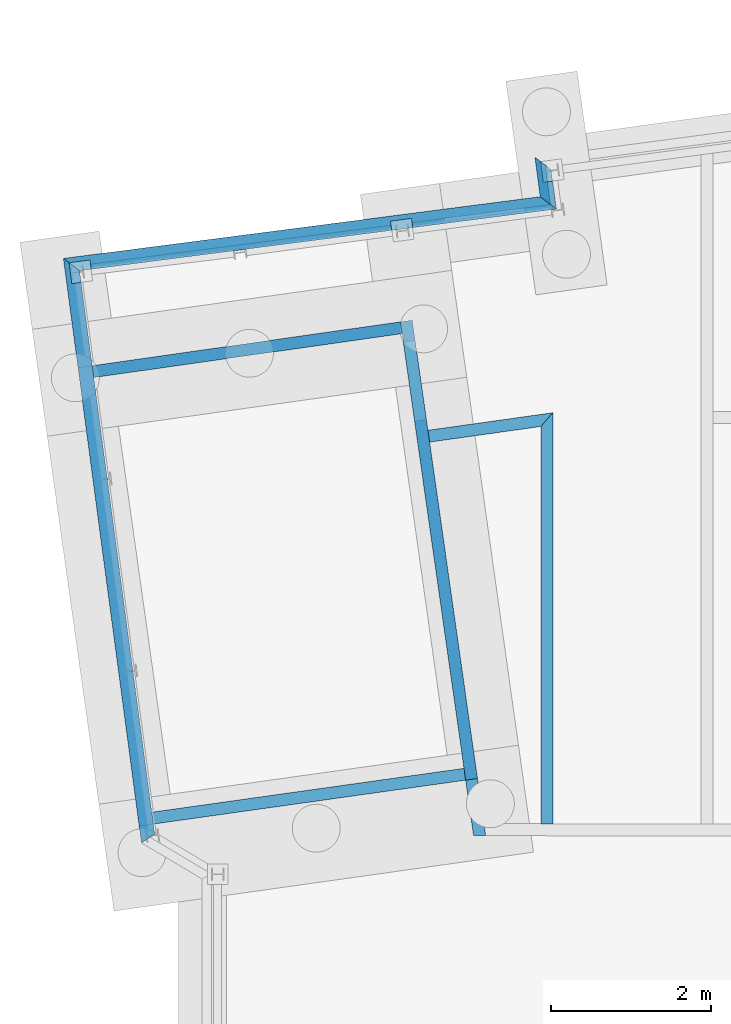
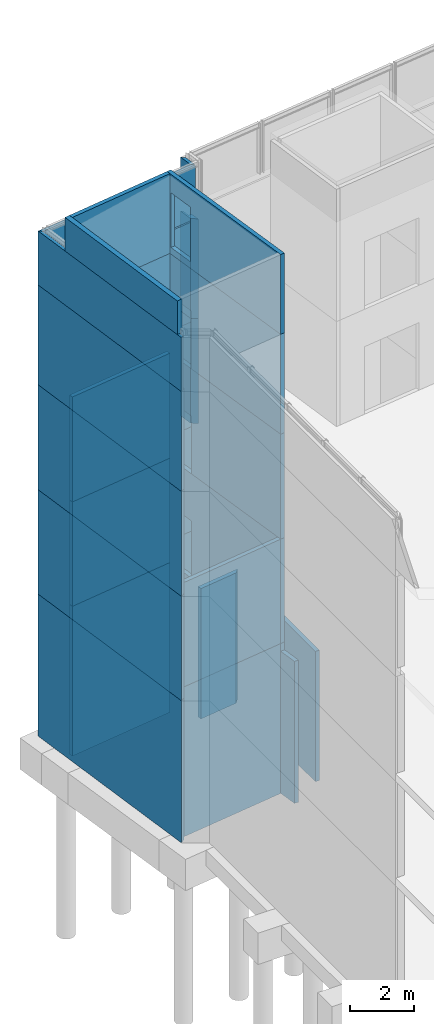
# One storey, part 70 of 82: 28 walls.
"""IFC2X3 building model written with IfcOpenShell, lengths in millimetres."""

from ifc_helpers import new_model, si_unit, frame, frame_2d, origin_with_axes, place, context, subcontext, project, spatial, polyline, rectangle, circle, outline, extrude, boolean, clip, halfspace, material, layer, layer_set, layer_usage, type_object, element, save


model = new_model("IFC2X3")

# Units and contexts
model_context = context("Model", 3, precision=1e-05, world=origin_with_axes())
body_context = subcontext(model_context, "Body", "Model", "MODEL_VIEW")
ifc_project = project(units=[si_unit("LENGTHUNIT", "METRE", prefix="MILLI"), si_unit("AREAUNIT", "SQUARE_METRE"), si_unit("VOLUMEUNIT", "CUBIC_METRE"), si_unit("MASSUNIT", "GRAM", prefix="KILO"), si_unit("TIMEUNIT", "SECOND"), si_unit("PLANEANGLEUNIT", "RADIAN"), si_unit("SOLIDANGLEUNIT", "STERADIAN"), si_unit("THERMODYNAMICTEMPERATUREUNIT", "DEGREE_CELSIUS"), si_unit("LUMINOUSINTENSITYUNIT", "LUMEN")], contexts=[model_context])

# Site, building, storey
site_placement = place(None, origin_with_axes())
site = spatial("IfcSite", under=ifc_project, at=site_placement, Name="Undefined", CompositionType="ELEMENT")
building_placement = place(site_placement, origin_with_axes())
building = spatial("IfcBuilding", under=site, at=building_placement, Name="Undefined", CompositionType="ELEMENT")
storey_placement = place(building_placement, origin_with_axes())
storey = spatial("IfcBuildingStorey", under=building, at=storey_placement, Name="Undefined", CompositionType="ELEMENT", Elevation=0.0)

# Walls
ifc_material_1 = material(Name="CONCRETE/C25/30")
wall_type_1 = type_object("IfcWallType", Name="3830*150", PredefinedType="NOTDEFINED")
wall_1_placement = place(storey_placement, frame((2444.51224522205, 25459.4833663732, 13330.0000000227), z_axis=(0.0, 0.0, 1.0), x_axis=(-0.99002185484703, -0.140913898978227, 0.0)))
element("IfcWall", 1, at=wall_1_placement, inside=storey, type_object=wall_type_1, material=ifc_material_1, Name="VOILE_15CM", ObjectType="3830*150", context=body_context, shape_type="Clipping", body=[
    clip(extrude(rectangle(XDim=3986.0246190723, YDim=150.0, at=frame_2d((0.0, 2143.01106508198), x_axis=(0.0, -1.0))), frame((0.0, 0.0, 0.0), z_axis=(0.0, 0.0, 1.0), x_axis=(-2.77555756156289e-17, -1.0, 0.0)), (0.0, 0.0, 1.0), 3830.0), halfspace(frame((4045.33067107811, -3.67945176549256e-08, 915.0), z_axis=(-0.999961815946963, 0.00873880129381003, 0.0), x_axis=(0.00873880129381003, 0.999961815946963, 0.0)), True)),
])
ifc_layer_1 = layer(ifc_material_1, 150.0)
ifc_layer_set_1 = layer_set([ifc_layer_1], Name="Wall: Insitu CONCRETE/C25/30")
ifc_layer_usage_1 = layer_usage(ifc_layer_set_1, "AXIS2", "POSITIVE", -75.0)
wall_2_placement = place(storey_placement, frame((2359.69237022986, 25523.1656782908, 13330.0000000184), z_axis=(0.0, 0.0, 1.0), x_axis=(0.140927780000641, -0.990019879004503, 0.0)))
element("IfcWallStandardCase", 2, at=wall_2_placement, inside=storey, type_object=wall_type_1, material=ifc_layer_usage_1, Name="VOILE_15CM", ObjectType="3830*150", context=body_context, shape_type="CSG", body=[
    boolean("DIFFERENCE", extrude(rectangle(XDim=5792.8290000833, YDim=150.0, at=frame_2d((0.0, 2896.41450004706), x_axis=(0.0, -1.0))), frame((0.0, 0.0, 0.0), z_axis=(0.0, 0.0, 1.0), x_axis=(-2.77555756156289e-17, -1.0, 0.0)), (0.0, 0.0, 1.0), 3830.0), extrude(outline(polyline([(5.17284206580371e-08, 4.49290382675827e-10), (2220.0, -4.22005541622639e-10), (2220.0, 999.999999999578), (0.0, 1000.00000000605), (5.17284206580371e-08, 4.49290382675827e-10)])), frame((1256.48943089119, -85.0000000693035, 2220.00000000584), z_axis=(0.0, 1.0, 0.0), x_axis=(0.0, -6.50000002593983e-08, -0.999999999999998)), (0.0, 0.0, 1.0), 170.0)),
])
wall_type_2 = type_object("IfcWallType", Name="4025*150", PredefinedType="NOTDEFINED")
wall_3_placement = place(storey_placement, frame((2444.51224522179, 25459.4833663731, 9305.00000002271), z_axis=(0.0, 0.0, 1.0), x_axis=(-0.99002185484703, -0.140913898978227, 0.0)))
element("IfcWall", 3, at=wall_3_placement, inside=storey, type_object=wall_type_2, material=ifc_material_1, Name="VOILE_15CM", ObjectType="4025*150", context=body_context, shape_type="Clipping", body=[
    clip(extrude(rectangle(XDim=3986.0246190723, YDim=150.0, at=frame_2d((0.0, 2143.01106508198), x_axis=(0.0, -1.0))), frame((0.0, 0.0, 0.0), z_axis=(0.0, 0.0, 1.0), x_axis=(-2.77555756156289e-17, -1.0, 0.0)), (0.0, 0.0, 1.0), 4025.0), halfspace(frame((4045.33067107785, -3.67981556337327e-08, 1012.5), z_axis=(-0.999961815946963, 0.00873880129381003, 0.0), x_axis=(0.00873880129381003, 0.999961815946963, 0.0)), True)),
])
ifc_layer_usage_2 = layer_usage(ifc_layer_set_1, "AXIS2", "POSITIVE", -75.0)
wall_4_placement = place(storey_placement, frame((2359.69237022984, 25523.165678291, 9305.00000001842), z_axis=(0.0, 0.0, 1.0), x_axis=(0.140927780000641, -0.990019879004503, 0.0)))
element("IfcWallStandardCase", 4, at=wall_4_placement, inside=storey, type_object=wall_type_2, material=ifc_layer_usage_2, Name="VOILE_15CM", ObjectType="4025*150", context=body_context, shape_type="CSG", body=[
    boolean("DIFFERENCE", extrude(rectangle(XDim=5792.8290000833, YDim=150.0, at=frame_2d((0.0, 2896.41450004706), x_axis=(0.0, -1.0))), frame((0.0, 0.0, 0.0), z_axis=(0.0, 0.0, 1.0), x_axis=(-2.77555756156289e-17, -1.0, 0.0)), (0.0, 0.0, 1.0), 4025.0), extrude(outline(polyline([(5.17284206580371e-08, 4.49290382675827e-10), (2220.0, -4.22005541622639e-10), (2220.0, 999.999999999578), (0.0, 1000.00000000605), (5.17284206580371e-08, 4.49290382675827e-10)])), frame((1256.48943089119, -85.0000000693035, 2220.00000000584), z_axis=(0.0, 1.0, 0.0), x_axis=(0.0, -6.50000002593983e-08, -0.999999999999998)), (0.0, 0.0, 1.0), 170.0)),
])
wall_type_3 = type_object("IfcWallType", Name="4005*150", PredefinedType="NOTDEFINED")
wall_5_placement = place(storey_placement, frame((3091.37342688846, 19851.8501837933, 5300.00000002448), z_axis=(0.0, 0.0, 1.0), x_axis=(-0.990268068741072, -0.13917310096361, 0.0)))
element("IfcWall", 5, at=wall_5_placement, inside=storey, type_object=wall_type_3, material=ifc_material_1, Name="VOILE_15CM", ObjectType="4005*150", context=body_context, shape_type="Clipping", body=[
    clip(extrude(rectangle(XDim=4034.8041993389, YDim=150.0, at=frame_2d((0.0, 2017.53498920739), x_axis=(0.0, -1.0))), frame((0.0, 0.0, 0.0), z_axis=(0.0, 0.0, 1.0), x_axis=(-2.77555756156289e-17, -1.0, 0.0)), (0.0, 0.0, 1.0), 4005.0), halfspace(frame((3944.80287529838, -3.4353433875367e-08, 1002.5), z_axis=(-0.999975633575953, 0.00698084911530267, 0.0), x_axis=(0.00698084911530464, 0.999975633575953, 0.0)), True)),
])
wall_6_placement = place(storey_placement, frame((2444.51224522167, 25459.4833663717, 5300.00000002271), z_axis=(0.0, 0.0, 1.0), x_axis=(-0.99002185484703, -0.140913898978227, 0.0)))
element("IfcWall", 6, at=wall_6_placement, inside=storey, type_object=wall_type_3, material=ifc_material_1, Name="VOILE_15CM", ObjectType="4005*150", context=body_context, shape_type="Clipping", body=[
    clip(extrude(rectangle(XDim=3986.02461873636, YDim=150.0, at=frame_2d((0.0, 2143.01106508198), x_axis=(0.0, -1.0))), frame((0.0, 0.0, 0.0), z_axis=(0.0, 0.0, 1.0), x_axis=(-2.77555756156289e-17, -1.0, 0.0)), (0.0, 0.0, 1.0), 4005.0), halfspace(frame((4045.33067107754, -3.68345354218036e-08, 1002.5), z_axis=(-0.999961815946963, 0.00873880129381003, 0.0), x_axis=(0.00873880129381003, 0.999961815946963, 0.0)), True)),
])
ifc_layer_usage_3 = layer_usage(ifc_layer_set_1, "AXIS2", "POSITIVE", -75.0)
wall_7_placement = place(storey_placement, frame((2359.6923702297, 25523.1656782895, 5300.00000001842), z_axis=(0.0, 0.0, 1.0), x_axis=(0.140927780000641, -0.990019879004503, 0.0)))
element("IfcWallStandardCase", 7, at=wall_7_placement, inside=storey, type_object=wall_type_3, material=ifc_layer_usage_3, Name="VOILE_15CM", ObjectType="4005*150", context=body_context, shape_type="CSG", body=[
    boolean("DIFFERENCE", extrude(rectangle(XDim=5792.82900008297, YDim=150.0, at=frame_2d((0.0, 2896.41450004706), x_axis=(0.0, -1.0))), frame((0.0, 0.0, 0.0), z_axis=(0.0, 0.0, 1.0), x_axis=(-2.77555756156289e-17, -1.0, 0.0)), (0.0, 0.0, 1.0), 4005.0), extrude(outline(polyline([(5.17284206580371e-08, 4.49290382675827e-10), (2200.0, 1.09139364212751e-11), (2200.0, 1000.00000000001), (0.0, 1000.00000000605), (5.17284206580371e-08, 4.49290382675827e-10)])), frame((1256.48943089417, -85.0000004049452, 2200.00000000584), z_axis=(0.0, 1.0, 0.0), x_axis=(0.0, -6.50000002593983e-08, -0.999999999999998)), (0.0, 0.0, 1.0), 170.0)),
])
ifc_layer_2 = layer(ifc_material_1, 180.0)
ifc_layer_set_2 = layer_set([ifc_layer_2], Name="Wall: Insitu CONCRETE/C25/30")
ifc_layer_usage_4 = layer_usage(ifc_layer_set_2, "AXIS2", "POSITIVE", -90.0)
wall_type_4 = type_object("IfcWallType", Name="1290*180", PredefinedType="NOTDEFINED")
wall_8_placement = place(storey_placement, frame((-894.162523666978, 19215.347637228, 18931.0), z_axis=(0.0, 0.0, 1.0), x_axis=(-0.132256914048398, 0.991215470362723, 0.0)))
element("IfcWallStandardCase", 8, at=wall_8_placement, inside=storey, type_object=wall_type_4, material=ifc_layer_usage_4, Name="PANNEAU_FACADE", ObjectType="1290*180", context=body_context, shape_type="SweptSolid", body=[
    extrude(rectangle(XDim=5785.79959054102, YDim=180.0, at=frame_2d((0.0, 2892.89979527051), x_axis=(0.0, -1.0))), frame((0.0, 0.0, 0.0), z_axis=(0.0, 0.0, 1.0), x_axis=(-2.77555756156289e-17, -1.0, 0.0)), (0.0, 0.0, 1.0), 1290.0),
])
wall_type_5 = type_object("IfcWallType", Name="2071*115", PredefinedType="NOTDEFINED")
wall_9_placement = place(storey_placement, frame((4091.24355545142, 27085.5637129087, 16860.0), z_axis=(0.0, 0.0, 1.0), x_axis=(-0.132256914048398, 0.991215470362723, 0.0)))
element("IfcWall", 9, at=wall_9_placement, inside=storey, type_object=wall_type_5, material=ifc_material_1, Name="PANNEAU_FACADE", ObjectType="2071*115", context=body_context, shape_type="Clipping", body=[
    clip(clip(extrude(rectangle(XDim=1006.84812565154, YDim=115.0, at=frame_2d((0.0, 192.066984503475), x_axis=(0.0, -1.0))), frame((0.0, 0.0, 0.0), z_axis=(0.0, 0.0, 1.0), x_axis=(-2.77555756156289e-17, -1.0, 0.0)), (0.0, 0.0, 1.0), 2071.0), halfspace(frame((499.419812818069, 57.5000000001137, 1035.5), z_axis=(-0.706752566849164, 0.70746081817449, 0.0), x_axis=(0.0, 0.0, 1.0)), True)), halfspace(frame((3.31783667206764e-09, 57.5000000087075, 1035.5), z_axis=(-0.705704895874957, 0.708505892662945, 0.0), x_axis=(0.0, 0.0, 1.0)), False)),
])
wall_10_placement = place(storey_placement, frame((-1923.68653508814, 26249.024349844, 16860.0), z_axis=(0.0, 0.0, 1.0), x_axis=(0.991731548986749, 0.128329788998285, 0.0)))
element("IfcWall", 10, at=wall_10_placement, inside=storey, type_object=wall_type_5, material=ifc_material_1, Name="PANNEAU_FACADE", ObjectType="2071*115", context=body_context, shape_type="Clipping", body=[
    clip(clip(extrude(rectangle(XDim=6635.12121817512, YDim=115.0, at=frame_2d((0.0, 3065.25286614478), x_axis=(0.0, -1.0))), frame((0.0, 0.0, 0.0), z_axis=(0.0, 0.0, 1.0), x_axis=(-2.77555756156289e-17, -1.0, 0.0)), (0.0, 0.0, 1.0), 2071.0), halfspace(frame((6015.04930680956, 57.5000000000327, 1035.49999999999), z_axis=(-0.705704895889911, -0.70850589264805, 0.0), x_axis=(0.0, 0.0, 1.0)), True)), halfspace(frame((3.31783667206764e-09, 57.5000000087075, 1035.5), z_axis=(-0.705704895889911, -0.70850589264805, 0.0), x_axis=(0.0, 0.0, 1.0)), False)),
])
wall_11_placement = place(storey_placement, frame((-898.384355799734, 19001.2548244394, 16860.0), z_axis=(0.0, 0.0, 1.0), x_axis=(-0.132256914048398, 0.991215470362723, 0.0)))
element("IfcWall", 11, at=wall_11_placement, inside=storey, type_object=wall_type_5, material=ifc_material_1, Name="PANNEAU_FACADE", ObjectType="2071*115", context=body_context, shape_type="Clipping", body=[
    clip(clip(extrude(rectangle(XDim=7730.16381775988, YDim=115.0, at=frame_2d((0.0, 3673.65473618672), x_axis=(0.0, -1.0))), frame((0.0, 0.0, 0.0), z_axis=(0.0, 0.0, 1.0), x_axis=(-2.77555756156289e-17, -1.0, 0.0)), (0.0, 0.0, 1.0), 2071.0), halfspace(frame((7377.20413036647, 57.5000000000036, 1035.5), z_axis=(-0.705704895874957, 0.708505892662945, 0.0), x_axis=(0.0, 0.0, 1.0)), True)), halfspace(frame((3.31783667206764e-09, 57.5000000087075, 1035.5), z_axis=(-0.900091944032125, -0.435700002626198, 0.0), x_axis=(0.0, 0.0, 1.0)), False)),
])
wall_type_6 = type_object("IfcWallType", Name="3061*150", PredefinedType="NOTDEFINED")
wall_12_placement = place(storey_placement, frame((2444.51224522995, 25459.4833663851, 17160.0000000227), z_axis=(0.0, 0.0, 1.0), x_axis=(-0.99002185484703, -0.140913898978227, 0.0)))
element("IfcWall", 12, at=wall_12_placement, inside=storey, type_object=wall_type_6, material=ifc_material_1, Name="VOILE_15CM", ObjectType="3061*150", context=body_context, shape_type="Clipping", body=[
    clip(extrude(rectangle(XDim=3986.02461899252, YDim=150.0, at=frame_2d((0.0, 2143.01106508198), x_axis=(0.0, -1.0))), frame((0.0, 0.0, 0.0), z_axis=(0.0, 0.0, 1.0), x_axis=(-2.77555756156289e-17, -1.0, 0.0)), (0.0, 0.0, 1.0), 3061.0), halfspace(frame((4044.68898239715, -73.427015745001, 1770.99999997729), z_axis=(0.999961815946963, -0.00873880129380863, 0.0), x_axis=(0.0, 0.0, 1.0)), False)),
])
ifc_layer_usage_5 = layer_usage(ifc_layer_set_1, "AXIS2", "POSITIVE", -75.0)
wall_13_placement = place(storey_placement, frame((2359.69237023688, 25523.1656783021, 17160.0000000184), z_axis=(0.0, 0.0, 1.0), x_axis=(0.140927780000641, -0.990019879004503, 0.0)))
element("IfcWallStandardCase", 13, at=wall_13_placement, inside=storey, type_object=wall_type_6, material=ifc_layer_usage_5, Name="VOILE_15CM", ObjectType="3061*150", context=body_context, shape_type="CSG", body=[
    boolean("DIFFERENCE", extrude(rectangle(XDim=5792.82900009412, YDim=150.0, at=frame_2d((0.0, 2896.41450004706), x_axis=(0.0, -1.0))), frame((0.0, 0.0, 0.0), z_axis=(0.0, 0.0, 1.0), x_axis=(-2.77555756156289e-17, -1.0, 0.0)), (0.0, 0.0, 1.0), 3061.0), extrude(outline(polyline([(5.17284206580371e-08, 4.49290382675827e-10), (2100.0, 5.82076609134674e-11), (2100.0, 1000.00000000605), (0.0, 1000.00000000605), (5.17284206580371e-08, 4.49290382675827e-10)])), frame((1201.2387472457, -85.0000000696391, 2352.98114011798), z_axis=(0.0, 1.0, 0.0), x_axis=(0.0, -6.50000002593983e-08, -0.999999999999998)), (0.0, 0.0, 1.0), 170.0)),
])
wall_type_7 = type_object("IfcWallType", Name="3830*180", PredefinedType="NOTDEFINED")
wall_14_placement = place(storey_placement, frame((4147.35883098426, 26910.7352589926, 13030.0), z_axis=(0.0, 0.0, 1.0), x_axis=(-0.132256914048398, 0.991215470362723, 0.0)))
element("IfcWall", 14, at=wall_14_placement, inside=storey, type_object=wall_type_7, material=ifc_material_1, Name="PANNEAU_FACADE", ObjectType="3830*180", context=body_context, shape_type="CSG", body=[
    boolean("DIFFERENCE", boolean("DIFFERENCE", boolean("DIFFERENCE", extrude(rectangle(XDim=1293.65543501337, YDim=180.0, at=frame_2d((0.0, 340.200514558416), x_axis=(0.0, -1.0))), frame((0.0, 0.0, 0.0), z_axis=(0.0, 0.0, 1.0), x_axis=(-2.77555756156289e-17, -1.0, 0.0)), (0.0, 0.0, 1.0), 3830.0), extrude(rectangle(XDim=265.0, YDim=265.0, at=frame_2d((5.17284206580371e-08, 4.49290382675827e-10), x_axis=(1.0, 0.0))), frame((485.073421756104, -104.999523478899, 3829.9999999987), z_axis=(0.0, -6.50000002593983e-08, -0.999999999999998), x_axis=(0.999999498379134, -0.00100161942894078, 0.0)), (0.0, 0.0, 1.0), 3530.0)), halfspace(frame((680.134124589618, 89.9999993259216, 1915.0), z_axis=(-0.706752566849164, 0.70746081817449, 0.0), x_axis=(0.0, 0.0, 1.0)), True)), halfspace(frame((180.714311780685, 89.9999998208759, 1915.0), z_axis=(-0.705704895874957, 0.708505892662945, 0.0), x_axis=(0.0, 0.0, 1.0)), False)),
])
wall_15_placement = place(storey_placement, frame((-1919.51594655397, 26216.7930577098, 13030.0), z_axis=(0.0, 0.0, 1.0), x_axis=(0.991731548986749, 0.128329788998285, 0.0)))
element("IfcWall", 15, at=wall_15_placement, inside=storey, type_object=wall_type_7, material=ifc_material_1, Name="PANNEAU_FACADE", ObjectType="3830*180", context=body_context, shape_type="CSG", body=[
    boolean("DIFFERENCE", boolean("DIFFERENCE", boolean("DIFFERENCE", boolean("DIFFERENCE", extrude(rectangle(XDim=6985.59664635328, YDim=180.0, at=frame_2d((0.0, 3097.88198663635), x_axis=(0.0, -1.0))), frame((0.0, 0.0, 0.0), z_axis=(0.0, 0.0, 1.0), x_axis=(-2.77555756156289e-17, -1.0, 0.0)), (0.0, 0.0, 1.0), 3830.0), extrude(rectangle(XDim=265.0, YDim=265.0, at=frame_2d((5.17284206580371e-08, 4.49290382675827e-10), x_axis=(1.0, 0.0))), frame((4250.83669186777, -104.995246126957, 3830.0), z_axis=(0.0, -6.50000002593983e-08, -0.999999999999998), x_axis=(-0.00395969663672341, 0.999992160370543, 0.0)), (0.0, 0.0, 1.0), 3530.0)), extrude(rectangle(XDim=265.0, YDim=265.0, at=frame_2d((5.17284206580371e-08, 4.49290382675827e-10), x_axis=(1.0, 0.0))), frame((195.768834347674, -104.480001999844, 3830.0), z_axis=(0.0, -6.50000002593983e-08, -0.999999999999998), x_axis=(0.0, 1.0, 0.0)), (0.0, 0.0, 1.0), 3530.0)), halfspace(frame((6015.04943750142, 90.0000000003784, 1915.0), z_axis=(-0.705704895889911, -0.70850589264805, 0.0), x_axis=(0.0, 0.0, 1.0)), True)), halfspace(frame((0.000151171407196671, 90.0000000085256, 1915.0), z_axis=(-0.705704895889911, -0.70850589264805, 0.0), x_axis=(0.0, 0.0, 1.0)), False)),
])
wall_16_placement = place(storey_placement, frame((-866.169861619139, 19005.5532386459, 13030.0), z_axis=(0.0, 0.0, 1.0), x_axis=(-0.132256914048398, 0.991215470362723, 0.0)))
element("IfcWall", 16, at=wall_16_placement, inside=storey, type_object=wall_type_7, material=ifc_material_1, Name="PANNEAU_FACADE", ObjectType="3830*180", context=body_context, shape_type="CSG", body=[
    boolean("DIFFERENCE", boolean("DIFFERENCE", boolean("DIFFERENCE", extrude(rectangle(XDim=7929.66277150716, YDim=180.0, at=frame_2d((0.0, 3665.20618080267), x_axis=(0.0, -1.0))), frame((0.0, 0.0, 0.0), z_axis=(0.0, 0.0, 1.0), x_axis=(-2.77555756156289e-17, -1.0, 0.0)), (0.0, 0.0, 1.0), 3830.0), extrude(rectangle(XDim=265.0, YDim=265.0, at=frame_2d((5.17284206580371e-08, 4.49290382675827e-10), x_axis=(1.0, 0.0))), frame((7181.95017207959, -104.9968556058, 3830.0), z_axis=(0.0, -6.50000002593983e-08, -0.999999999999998), x_axis=(0.999992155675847, -0.00396088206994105, 0.0)), (0.0, 0.0, 1.0), 3530.0)), halfspace(frame((7377.20406527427, 89.9999999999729, 1915.0), z_axis=(-0.705704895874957, 0.708505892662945, 0.0), x_axis=(0.0, 0.0, 1.0)), True)), halfspace(frame((-6.50728106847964e-05, 90.0000000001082, 1915.0), z_axis=(-0.900091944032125, -0.435700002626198, 0.0), x_axis=(0.0, 0.0, 1.0)), False)),
])
wall_type_8 = type_object("IfcWallType", Name="4025*180", PredefinedType="NOTDEFINED")
wall_17_placement = place(storey_placement, frame((4147.35883098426, 26910.7352589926, 9005.0), z_axis=(0.0, 0.0, 1.0), x_axis=(-0.132256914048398, 0.991215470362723, 0.0)))
element("IfcWall", 17, at=wall_17_placement, inside=storey, type_object=wall_type_8, material=ifc_material_1, Name="PANNEAU_FACADE", ObjectType="4025*180", context=body_context, shape_type="CSG", body=[
    boolean("DIFFERENCE", boolean("DIFFERENCE", boolean("DIFFERENCE", extrude(rectangle(XDim=1293.65543501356, YDim=180.0, at=frame_2d((0.0, 340.200514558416), x_axis=(0.0, -1.0))), frame((0.0, 0.0, 0.0), z_axis=(0.0, 0.0, 1.0), x_axis=(-2.77555756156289e-17, -1.0, 0.0)), (0.0, 0.0, 1.0), 4025.0), extrude(rectangle(XDim=265.0, YDim=265.0, at=frame_2d((5.17284206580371e-08, 4.49290382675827e-10), x_axis=(1.0, 0.0))), frame((485.073421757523, -104.999523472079, 4024.9999999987), z_axis=(0.0, -6.50000002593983e-08, -0.999999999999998), x_axis=(0.999999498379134, -0.00100161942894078, 0.0)), (0.0, 0.0, 1.0), 3725.0)), halfspace(frame((680.134124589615, 89.9999993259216, 5940.0), z_axis=(-0.706752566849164, 0.70746081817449, 0.0), x_axis=(0.0, 0.0, 1.0)), True)), halfspace(frame((180.714311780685, 89.9999998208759, 2012.5), z_axis=(-0.705704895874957, 0.708505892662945, 0.0), x_axis=(0.0, 0.0, 1.0)), False)),
])
wall_18_placement = place(storey_placement, frame((-1919.51594655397, 26216.7930577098, 9005.0), z_axis=(0.0, 0.0, 1.0), x_axis=(0.991731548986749, 0.128329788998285, 0.0)))
element("IfcWall", 18, at=wall_18_placement, inside=storey, type_object=wall_type_8, material=ifc_material_1, Name="PANNEAU_FACADE", ObjectType="4025*180", context=body_context, shape_type="CSG", body=[
    boolean("DIFFERENCE", boolean("DIFFERENCE", boolean("DIFFERENCE", boolean("DIFFERENCE", extrude(rectangle(XDim=6985.59664635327, YDim=180.0, at=frame_2d((0.0, 3097.88198663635), x_axis=(0.0, -1.0))), frame((0.0, 0.0, 0.0), z_axis=(0.0, 0.0, 1.0), x_axis=(-2.77555756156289e-17, -1.0, 0.0)), (0.0, 0.0, 1.0), 4025.0), extrude(rectangle(XDim=265.0, YDim=265.0, at=frame_2d((5.17284206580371e-08, 4.49290382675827e-10), x_axis=(1.0, 0.0))), frame((4250.83669186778, -104.995246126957, 4025.0), z_axis=(0.0, -6.50000002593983e-08, -0.999999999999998), x_axis=(-0.00395969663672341, 0.999992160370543, 0.0)), (0.0, 0.0, 1.0), 3725.0)), extrude(rectangle(XDim=265.0, YDim=265.0, at=frame_2d((5.17284206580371e-08, 4.49290382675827e-10), x_axis=(1.0, 0.0))), frame((195.768834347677, -104.480001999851, 4025.0), z_axis=(0.0, -6.50000002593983e-08, -0.999999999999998), x_axis=(0.0, 1.0, 0.0)), (0.0, 0.0, 1.0), 3725.0)), halfspace(frame((6015.04943750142, 90.0000000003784, 2012.5), z_axis=(-0.705704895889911, -0.70850589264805, 0.0), x_axis=(0.0, 0.0, 1.0)), True)), halfspace(frame((0.00015117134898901, 90.0000000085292, 2012.5), z_axis=(-0.705704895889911, -0.70850589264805, 0.0), x_axis=(0.0, 0.0, 1.0)), False)),
])
wall_19_placement = place(storey_placement, frame((-866.169861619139, 19005.5532386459, 9005.0), z_axis=(0.0, 0.0, 1.0), x_axis=(-0.132256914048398, 0.991215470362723, 0.0)))
element("IfcWall", 19, at=wall_19_placement, inside=storey, type_object=wall_type_8, material=ifc_material_1, Name="PANNEAU_FACADE", ObjectType="4025*180", context=body_context, shape_type="CSG", body=[
    boolean("DIFFERENCE", boolean("DIFFERENCE", boolean("DIFFERENCE", extrude(rectangle(XDim=7929.66277150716, YDim=180.0, at=frame_2d((0.0, 3665.20618080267), x_axis=(0.0, -1.0))), frame((0.0, 0.0, 0.0), z_axis=(0.0, 0.0, 1.0), x_axis=(-2.77555756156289e-17, -1.0, 0.0)), (0.0, 0.0, 1.0), 4025.0), extrude(rectangle(XDim=265.0, YDim=265.0, at=frame_2d((5.17284206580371e-08, 4.49290382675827e-10), x_axis=(1.0, 0.0))), frame((7181.95017207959, -104.996855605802, 4025.0), z_axis=(0.0, -6.50000002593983e-08, -0.999999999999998), x_axis=(0.999992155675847, -0.00396088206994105, 0.0)), (0.0, 0.0, 1.0), 3725.0)), halfspace(frame((7377.20406527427, 89.9999999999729, 2012.5), z_axis=(-0.705704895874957, 0.708505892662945, 0.0), x_axis=(0.0, 0.0, 1.0)), True)), halfspace(frame((-6.50728106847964e-05, 90.0000000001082, 2012.5), z_axis=(-0.900091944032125, -0.435700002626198, 0.0), x_axis=(0.0, 0.0, 1.0)), False)),
])
wall_type_9 = type_object("IfcWallType", Name="4005*180", PredefinedType="NOTDEFINED")
wall_20_placement = place(storey_placement, frame((-1919.51594655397, 26216.7930577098, 5000.0), z_axis=(0.0, 0.0, 1.0), x_axis=(0.991731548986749, 0.128329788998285, 0.0)))
element("IfcWall", 20, at=wall_20_placement, inside=storey, type_object=wall_type_9, material=ifc_material_1, Name="PANNEAU_FACADE", ObjectType="4005*180", context=body_context, shape_type="CSG", body=[
    boolean("DIFFERENCE", boolean("DIFFERENCE", boolean("DIFFERENCE", boolean("DIFFERENCE", extrude(rectangle(XDim=6985.59664635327, YDim=180.0, at=frame_2d((0.0, 3097.88198663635), x_axis=(0.0, -1.0))), frame((0.0, 0.0, 0.0), z_axis=(0.0, 0.0, 1.0), x_axis=(-2.77555756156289e-17, -1.0, 0.0)), (0.0, 0.0, 1.0), 4005.0), extrude(rectangle(XDim=265.0, YDim=265.0, at=frame_2d((5.17284206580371e-08, 4.49290382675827e-10), x_axis=(1.0, 0.0))), frame((4250.83669186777, -104.995246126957, 4005.0), z_axis=(0.0, -6.50000002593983e-08, -0.999999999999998), x_axis=(-0.00395969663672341, 0.999992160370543, 0.0)), (0.0, 0.0, 1.0), 3705.0)), extrude(rectangle(XDim=265.0, YDim=265.0, at=frame_2d((5.17284206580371e-08, 4.49290382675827e-10), x_axis=(1.0, 0.0))), frame((195.76883434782, -104.480001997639, 4005.0), z_axis=(0.0, -6.50000002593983e-08, -0.999999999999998), x_axis=(0.0, 1.0, 0.0)), (0.0, 0.0, 1.0), 3705.0)), halfspace(frame((6015.04943750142, 90.0000000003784, 2002.5), z_axis=(-0.705704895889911, -0.70850589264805, 0.0), x_axis=(0.0, 0.0, 1.0)), True)), halfspace(frame((0.00015117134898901, 90.0000000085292, 2002.5), z_axis=(-0.705704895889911, -0.70850589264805, 0.0), x_axis=(0.0, 0.0, 1.0)), False)),
])
wall_21_placement = place(storey_placement, frame((-866.169861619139, 19005.5532386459, 5000.0), z_axis=(0.0, 0.0, 1.0), x_axis=(-0.132256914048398, 0.991215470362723, 0.0)))
element("IfcWall", 21, at=wall_21_placement, inside=storey, type_object=wall_type_9, material=ifc_material_1, Name="PANNEAU_FACADE", ObjectType="4005*180", context=body_context, shape_type="CSG", body=[
    boolean("DIFFERENCE", boolean("DIFFERENCE", boolean("DIFFERENCE", extrude(rectangle(XDim=7929.66277150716, YDim=180.0, at=frame_2d((0.0, 3665.20618080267), x_axis=(0.0, -1.0))), frame((0.0, 0.0, 0.0), z_axis=(0.0, 0.0, 1.0), x_axis=(-2.77555756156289e-17, -1.0, 0.0)), (0.0, 0.0, 1.0), 4005.0), extrude(rectangle(XDim=265.0, YDim=265.0, at=frame_2d((5.17284206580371e-08, 4.49290382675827e-10), x_axis=(1.0, 0.0))), frame((7181.9501720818, -104.996855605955, 4005.0), z_axis=(0.0, -6.50000002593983e-08, -0.999999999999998), x_axis=(0.999992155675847, -0.00396088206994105, 0.0)), (0.0, 0.0, 1.0), 3705.0)), halfspace(frame((7377.20406527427, 89.9999999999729, 2002.5), z_axis=(-0.705704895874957, 0.708505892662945, 0.0), x_axis=(0.0, 0.0, 1.0)), True)), halfspace(frame((-6.50728106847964e-05, 90.0000000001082, 2002.5), z_axis=(-0.900091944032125, -0.435700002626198, 0.0), x_axis=(0.0, 0.0, 1.0)), False)),
])
ifc_material_2 = material(Name="CONCRETE/BRIQUE")
wall_type_10 = type_object("IfcWallType", Name="5000*150", PredefinedType="NOTDEFINED")
wall_22_placement = place(storey_placement, frame((4202.17813015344, 24301.0184725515, 0.0), z_axis=(0.0, 0.0, 1.0), x_axis=(-0.990268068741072, -0.13917310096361, 0.0)))
element("IfcWall", 22, at=wall_22_placement, inside=storey, type_object=wall_type_10, material=ifc_material_2, Name="MACONNERIE_15CM", ObjectType="5000*150", context=body_context, shape_type="Clipping", body=[
    clip(extrude(rectangle(XDim=1726.15971582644, YDim=150.0, at=frame_2d((0.0, 713.785428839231), x_axis=(0.0, -1.0))), frame((0.0, 0.0, 0.0), z_axis=(0.0, 0.0, 1.0), x_axis=(-2.77555756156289e-17, -1.0, 0.0)), (0.0, 0.0, 1.0), 5000.0), halfspace(frame((-9.14013071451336e-07, -74.9999999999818, 2500.0), z_axis=(0.656058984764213, -0.7547096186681, 0.0), x_axis=(0.0, 0.0, 1.0)), True)),
])
wall_23_placement = place(storey_placement, frame((4116.74013977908, 19232.4086899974, 0.0), z_axis=(0.0, 0.0, 1.0), x_axis=(0.0, 1.0, 0.0)))
element("IfcWall", 23, at=wall_23_placement, inside=storey, type_object=wall_type_10, material=ifc_material_2, Name="MACONNERIE_15CM", ObjectType="5000*150", context=body_context, shape_type="CSG", body=[
    boolean("DIFFERENCE", boolean("DIFFERENCE", extrude(rectangle(XDim=5246.60618933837, YDim=150.0, at=frame_2d((0.0, 2623.46423531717), x_axis=(0.0, -1.0))), frame((0.0, 0.0, 0.0), z_axis=(0.0, 0.0, 1.0), x_axis=(-2.77555756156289e-17, -1.0, 0.0)), (0.0, 0.0, 1.0), 5000.0), extrude(circle(Radius=100.0, at=frame_2d((5.17284206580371e-08, 4.49290382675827e-10), x_axis=(1.0, 0.0))), frame((2796.82766873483, -85.0, 3800.00076293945), z_axis=(0.0, 1.0, 0.0), x_axis=(-1.0, 0.0, 0.0)), (0.0, 0.0, 1.0), 170.0)), halfspace(frame((5142.87988661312, -75.0, 2500.0), z_axis=(0.656058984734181, 0.754709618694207, 0.0), x_axis=(0.0, 0.0, 1.0)), False)),
])
wall_type_11 = type_object("IfcWallType", Name="5750*150", PredefinedType="NOTDEFINED")
wall_24_placement = place(storey_placement, frame((3091.37365479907, 19851.8501837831, -449.999999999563), z_axis=(0.0, 0.0, 1.0), x_axis=(-0.990268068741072, -0.13917310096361, 0.0)))
element("IfcWall", 24, at=wall_24_placement, inside=storey, type_object=wall_type_11, material=ifc_material_1, Name="VOILE_15CM", ObjectType="5750*150", context=body_context, shape_type="Clipping", body=[
    clip(extrude(rectangle(XDim=4034.80442728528, YDim=150.0, at=frame_2d((0.0, 2017.53510264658), x_axis=(0.0, -1.0))), frame((0.0, 0.0, 0.0), z_axis=(0.0, 0.0, 1.0), x_axis=(-2.77555756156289e-17, -1.0, 0.0)), (0.0, 0.0, 1.0), 5750.0), halfspace(frame((3944.80310120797, -5.04660420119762e-07, 1875.0), z_axis=(-0.999975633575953, 0.00698084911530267, 0.0), x_axis=(0.00698084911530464, 0.999975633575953, 0.0)), True)),
])
wall_25_placement = place(storey_placement, frame((2444.51247311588, 25459.4833663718, -450.000000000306), z_axis=(0.0, 0.0, 1.0), x_axis=(-0.99002185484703, -0.140913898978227, 0.0)))
element("IfcWall", 25, at=wall_25_placement, inside=storey, type_object=wall_type_11, material=ifc_material_1, Name="VOILE_15CM", ObjectType="5750*150", context=body_context, shape_type="Clipping", body=[
    clip(extrude(rectangle(XDim=3986.02484494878, YDim=150.0, at=frame_2d((0.0, 2143.01117808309), x_axis=(0.0, -1.0))), frame((0.0, 0.0, 0.0), z_axis=(0.0, 0.0, 1.0), x_axis=(-2.77555756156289e-17, -1.0, 0.0)), (0.0, 0.0, 1.0), 5750.0), halfspace(frame((4045.33089697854, -3.64198058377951e-08, 1875.0), z_axis=(-0.999961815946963, 0.00873880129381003, 0.0), x_axis=(0.00873880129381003, 0.999961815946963, 0.0)), True)),
])
wall_26_placement = place(storey_placement, frame((2359.69259810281, 25523.1656782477, -450.000000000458), z_axis=(0.0, 0.0, 1.0), x_axis=(0.140927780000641, -0.990019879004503, 0.0)))
element("IfcWall", 26, at=wall_26_placement, inside=storey, type_object=wall_type_11, material=ifc_material_1, Name="VOILE_15CM", ObjectType="5750*150", context=body_context, shape_type="CSG", body=[
    boolean("DIFFERENCE", boolean("DIFFERENCE", boolean("DIFFERENCE", extrude(rectangle(XDim=6573.59019728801, YDim=150.0, at=frame_2d((0.0, 3286.79509864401), x_axis=(0.0, -1.0))), frame((0.0, 0.0, 0.0), z_axis=(0.0, 0.0, 1.0), x_axis=(-2.77555756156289e-17, -1.0, 0.0)), (0.0, 0.0, 1.0), 5750.0), extrude(outline(polyline([(5.17284206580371e-08, 4.49290382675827e-10), (151.558746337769, -1.60071067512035e-10), (48.316608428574, 714.288085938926), (-100.140678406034, 692.830322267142), (5.17284206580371e-08, 4.49290382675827e-10)])), frame((6492.85900002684, -74.9999999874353, 5450.00000000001), z_axis=(0.0, 0.0, 1.0), x_axis=(0.1430516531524, 0.989715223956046, 0.0)), (0.0, 0.0, 1.0), 300.0)), extrude(outline(polyline([(5.17284206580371e-08, 4.49290382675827e-10), (2100.0, 5.82076609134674e-11), (2100.0, 1000.00000000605), (0.0, 1000.00000000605), (5.17284206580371e-08, 4.49290382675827e-10)])), frame((1256.48943091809, -85.0000000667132, 2550.00000000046), z_axis=(0.0, 1.0, 0.0), x_axis=(0.0, -6.50000002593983e-08, -0.999999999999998)), (0.0, 0.0, 1.0), 170.0)), halfspace(frame((6492.85900002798, -74.9999999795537, 450.000000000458), z_axis=(0.989715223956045, -0.143051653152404, 0.0), x_axis=(0.0, 0.0, 1.0)), False)),
])
wall_type_12 = type_object("IfcWallType", Name="5450*180", PredefinedType="NOTDEFINED")
wall_27_placement = place(storey_placement, frame((-1919.51594655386, 26216.7930577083, -450.0), z_axis=(0.0, 0.0, 1.0), x_axis=(0.991731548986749, 0.128329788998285, 0.0)))
element("IfcWall", 27, at=wall_27_placement, inside=storey, type_object=wall_type_12, material=ifc_material_1, Name="PANNEAU_FACADE", ObjectType="5450*180", context=body_context, shape_type="CSG", body=[
    boolean("DIFFERENCE", boolean("DIFFERENCE", boolean("DIFFERENCE", boolean("DIFFERENCE", boolean("DIFFERENCE", extrude(rectangle(XDim=6974.90463066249, YDim=180.0, at=frame_2d((0.0, 3097.88198663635), x_axis=(0.0, -1.0))), frame((0.0, 0.0, 0.0), z_axis=(0.0, 0.0, 1.0), x_axis=(-2.77555756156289e-17, -1.0, 0.0)), (0.0, 0.0, 1.0), 5450.0), extrude(rectangle(XDim=265.0, YDim=265.0, at=frame_2d((5.17284206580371e-08, 4.49290382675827e-10), x_axis=(1.0, 0.0))), frame((4250.83669186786, -104.995246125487, 5450.0), z_axis=(0.0, -6.50000002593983e-08, -0.999999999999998), x_axis=(-0.00395969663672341, 0.999992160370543, 0.0)), (0.0, 0.0, 1.0), 5450.0)), extrude(rectangle(XDim=265.0, YDim=265.0, at=frame_2d((5.17284206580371e-08, 4.49290382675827e-10), x_axis=(1.0, 0.0))), frame((195.768834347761, -104.480001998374, 5450.0), z_axis=(0.0, -6.50000002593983e-08, -0.999999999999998), x_axis=(0.0, 1.0, 0.0)), (0.0, 0.0, 1.0), 5450.0)), extrude(outline(polyline([(5.17284206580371e-08, 4.49290382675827e-10), (2100.0, 5.82076609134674e-11), (2100.0, 1259.99999999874), (0.0, 1259.99999999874), (5.17284206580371e-08, 4.49290382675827e-10)])), frame((5784.61896069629, -99.9999999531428, 2550.0), z_axis=(0.0, 1.0, 0.0), x_axis=(0.0, -6.50000002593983e-08, -0.999999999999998)), (0.0, 0.0, 1.0), 200.0)), halfspace(frame((6015.04943750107, 90.0000000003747, 2725.0), z_axis=(-0.705704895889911, -0.70850589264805, 0.0), x_axis=(0.0, 0.0, 1.0)), True)), halfspace(frame((0.000130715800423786, 90.0000000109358, 2725.0), z_axis=(-0.705704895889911, -0.70850589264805, 0.0), x_axis=(0.0, 0.0, 1.0)), False)),
])
wall_28_placement = place(storey_placement, frame((-866.169861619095, 19005.5532386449, -450.0), z_axis=(0.0, 0.0, 1.0), x_axis=(-0.132256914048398, 0.991215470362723, 0.0)))
element("IfcWall", 28, at=wall_28_placement, inside=storey, type_object=wall_type_12, material=ifc_material_1, Name="PANNEAU_FACADE", ObjectType="5450*180", context=body_context, shape_type="CSG", body=[
    boolean("DIFFERENCE", boolean("DIFFERENCE", boolean("DIFFERENCE", extrude(rectangle(XDim=7929.66277150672, YDim=180.0, at=frame_2d((0.0, 3665.20618080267), x_axis=(0.0, -1.0))), frame((0.0, 0.0, 0.0), z_axis=(0.0, 0.0, 1.0), x_axis=(-2.77555756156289e-17, -1.0, 0.0)), (0.0, 0.0, 1.0), 5450.0), extrude(rectangle(XDim=265.0, YDim=265.0, at=frame_2d((5.17284206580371e-08, 4.49290382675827e-10), x_axis=(1.0, 0.0))), frame((7181.95017208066, -104.996855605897, 5450.0), z_axis=(0.0, -6.50000002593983e-08, -0.999999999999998), x_axis=(0.999992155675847, -0.00396088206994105, 0.0)), (0.0, 0.0, 1.0), 5450.0)), halfspace(frame((7377.20406527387, 89.9999999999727, 2725.0), z_axis=(-0.705704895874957, 0.708505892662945, 0.0), x_axis=(0.0, 0.0, 1.0)), True)), halfspace(frame((-6.50728070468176e-05, 90.0000000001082, 2725.0), z_axis=(-0.900091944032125, -0.435700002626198, 0.0), x_axis=(0.0, 0.0, 1.0)), False)),
])

save(model, "model.ifc")
